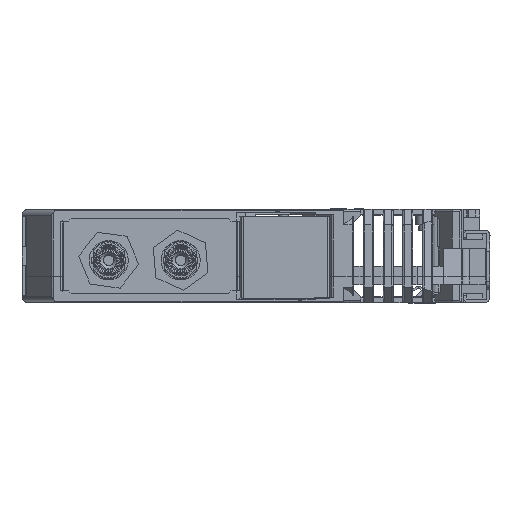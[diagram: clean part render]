
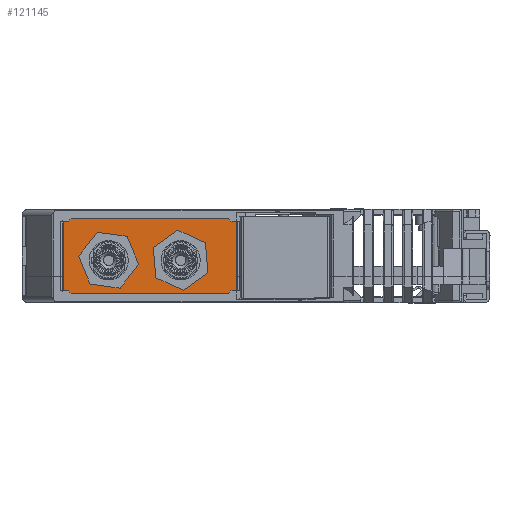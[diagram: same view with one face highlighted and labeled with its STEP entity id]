
A CAD part, left-side view. The second image highlights one B-rep face of the part: STEP entity #121145.
In plain terms, the highlighted planar face has unit normal (-1, 0, 0) as drawn and (1, 0, 0) by its records, which use the part's own axes.
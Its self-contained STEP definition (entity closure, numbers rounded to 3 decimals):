
#2375=CIRCLE('',#128284,5.);
#2376=CIRCLE('',#128285,5.);
#2378=CIRCLE('',#128288,5.);
#2379=CIRCLE('',#128289,5.);
#3651=FACE_BOUND('',#17285,.T.);
#3652=FACE_BOUND('',#17286,.T.);
#10569=FACE_OUTER_BOUND('',#17284,.T.);
#17284=EDGE_LOOP('',(#97483,#97484,#97485,#97486));
#17285=EDGE_LOOP('',(#97487,#97488));
#17286=EDGE_LOOP('',(#97489,#97490));
#28381=LINE('',#196442,#41682);
#28383=LINE('',#196448,#41684);
#28388=LINE('',#196472,#41689);
#28389=LINE('',#196474,#41690);
#41682=VECTOR('',#149140,1.);
#41684=VECTOR('',#149144,1.);
#41689=VECTOR('',#149169,1.);
#41690=VECTOR('',#149172,1.);
#53740=VERTEX_POINT('',#196419);
#53741=VERTEX_POINT('',#196420);
#53743=VERTEX_POINT('',#196427);
#53744=VERTEX_POINT('',#196428);
#53746=VERTEX_POINT('',#196435);
#53749=VERTEX_POINT('',#196440);
#53750=VERTEX_POINT('',#196444);
#53752=VERTEX_POINT('',#196447);
#68891=EDGE_CURVE('',#53740,#53741,#2375,.T.);
#68892=EDGE_CURVE('',#53741,#53740,#2376,.T.);
#68895=EDGE_CURVE('',#53743,#53744,#2378,.T.);
#68896=EDGE_CURVE('',#53744,#53743,#2379,.T.);
#68902=EDGE_CURVE('',#53746,#53749,#28381,.T.);
#68904=EDGE_CURVE('',#53750,#53752,#28383,.T.);
#68917=EDGE_CURVE('',#53746,#53750,#28388,.T.);
#68918=EDGE_CURVE('',#53752,#53749,#28389,.T.);
#97483=ORIENTED_EDGE('',*,*,#68917,.F.);
#97484=ORIENTED_EDGE('',*,*,#68902,.T.);
#97485=ORIENTED_EDGE('',*,*,#68918,.F.);
#97486=ORIENTED_EDGE('',*,*,#68904,.F.);
#97487=ORIENTED_EDGE('',*,*,#68891,.T.);
#97488=ORIENTED_EDGE('',*,*,#68892,.T.);
#97489=ORIENTED_EDGE('',*,*,#68895,.T.);
#97490=ORIENTED_EDGE('',*,*,#68896,.T.);
#112011=PLANE('',#128304);
#121145=ADVANCED_FACE('',(#10569,#3651,#3652),#112011,.F.);
#128284=AXIS2_PLACEMENT_3D('',#196421,#149119,#149120);
#128285=AXIS2_PLACEMENT_3D('',#196422,#149121,#149122);
#128288=AXIS2_PLACEMENT_3D('',#196429,#149128,#149129);
#128289=AXIS2_PLACEMENT_3D('',#196430,#149130,#149131);
#128304=AXIS2_PLACEMENT_3D('',#196475,#149173,#149174);
#149119=DIRECTION('center_axis',(-1.,0.,0.));
#149120=DIRECTION('ref_axis',(0.,0.,-1.));
#149121=DIRECTION('center_axis',(-1.,0.,0.));
#149122=DIRECTION('ref_axis',(0.,0.,-1.));
#149128=DIRECTION('center_axis',(-1.,0.,0.));
#149129=DIRECTION('ref_axis',(0.,0.,-1.));
#149130=DIRECTION('center_axis',(-1.,0.,0.));
#149131=DIRECTION('ref_axis',(0.,0.,-1.));
#149140=DIRECTION('',(0.,0.,-1.));
#149144=DIRECTION('',(0.,0.,-1.));
#149169=DIRECTION('',(0.,1.,0.));
#149172=DIRECTION('',(0.,-1.,0.));
#149173=DIRECTION('center_axis',(-1.,0.,0.));
#149174=DIRECTION('ref_axis',(0.,1.,0.));
#196419=CARTESIAN_POINT('',(8.749,123.363,-12.744));
#196420=CARTESIAN_POINT('',(8.749,123.363,-2.744));
#196421=CARTESIAN_POINT('Origin',(8.749,123.363,-7.744));
#196422=CARTESIAN_POINT('Origin',(8.749,123.363,-7.744));
#196427=CARTESIAN_POINT('',(8.749,105.898,-12.744));
#196428=CARTESIAN_POINT('',(8.749,105.898,-2.744));
#196429=CARTESIAN_POINT('Origin',(8.749,105.898,-7.744));
#196430=CARTESIAN_POINT('Origin',(8.749,105.898,-7.744));
#196435=CARTESIAN_POINT('',(8.749,92.56,0.75));
#196440=CARTESIAN_POINT('',(8.749,92.56,-18.45));
#196442=CARTESIAN_POINT('',(8.749,92.56,0.));
#196444=CARTESIAN_POINT('',(8.749,134.56,0.75));
#196447=CARTESIAN_POINT('',(8.749,134.56,-18.45));
#196448=CARTESIAN_POINT('',(8.749,134.56,0.));
#196472=CARTESIAN_POINT('',(8.749,0.,0.75));
#196474=CARTESIAN_POINT('',(8.749,0.,-18.45));
#196475=CARTESIAN_POINT('Origin',(8.749,103.311,-19.87));
